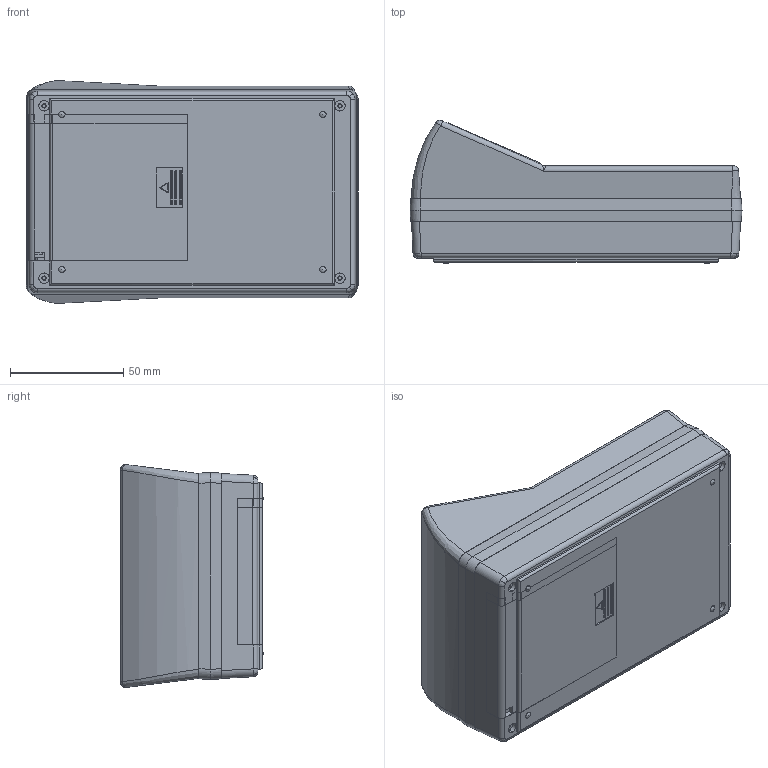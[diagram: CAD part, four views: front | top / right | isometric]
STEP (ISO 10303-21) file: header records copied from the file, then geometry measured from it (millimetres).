
FILE_DESCRIPTION (( 'STEP AP214' ), '1' );
FILE_NAME ('90-53-4A-E-R.STEP', '2020-10-16T15:05:54', ( 'Rudy' ), ( '' ), 'SwSTEP 2.0', 'SolidWorks 2014', '' );
FILE_SCHEMA (( 'AUTOMOTIVE_DESIGN' ));
Length unit declared in the file: millimetre
Products named in the file (7): 90 PCB 29V-4AA; 90 Angle LCD expander; 4AAdoor; 90-bessel; Top Angled LCD; 90-4AA; 90-53-4A-E-R
Assembly tree (6 placements, depth 2):
  90-53-4A-E-R
    90-4AA
    Top Angled LCD
    90-bessel
    4AAdoor
    90 Angle LCD expander
    90 PCB 29V-4AA
Bounding box: 146.8 x 63.32 x 98.54 mm (x, y, z)
Volume: 154761.3 mm3; surface area: 138276.9 mm2
Topology: 6 solids, 6 shells, 878 faces, 2368 edges, 1536 vertices
Faces by surface type: plane 587, cylinder 185, cone 52, torus 24, bspline 20, sphere 10
Entity records: 29360 total; most frequent: CARTESIAN_POINT 6252, ORIENTED_EDGE 4696, DIRECTION 4405, EDGE_CURVE 2348, LINE 1751, VECTOR 1751, VERTEX_POINT 1528, AXIS2_PLACEMENT_3D 1327
